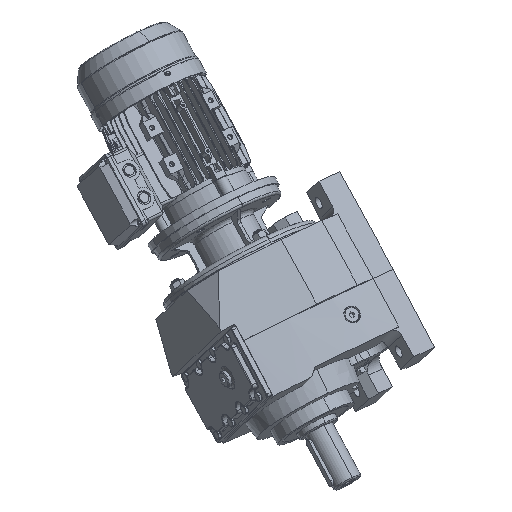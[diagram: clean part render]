
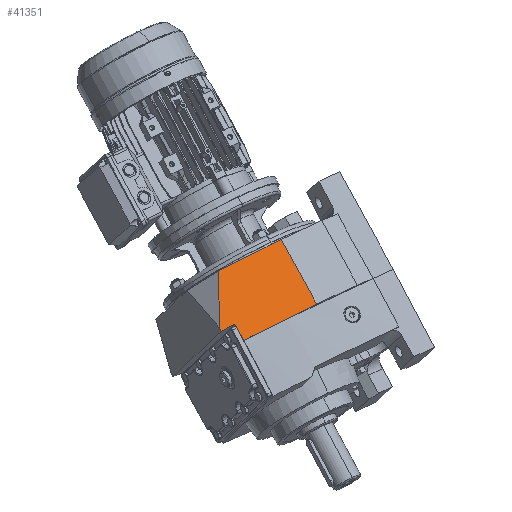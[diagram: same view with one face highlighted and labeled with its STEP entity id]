
A CAD part, left-side view. The second image highlights one B-rep face of the part: STEP entity #41351.
In plain terms, the highlighted planar face has unit normal (-0.962, -0.14, 0.235) as drawn and (0.979, 0.205, -0.017) by its records, which use the part's own axes.
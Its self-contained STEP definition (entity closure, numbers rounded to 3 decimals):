
#4397 = FACE_OUTER_BOUND ( 'NONE', #77984, .T. ) ;
#7380 = PLANE ( 'NONE',  #13823 ) ;
#7383 = CARTESIAN_POINT ( 'NONE',  ( 86.5, 91., 88.5 ) ) ;
#7430 = DIRECTION ( 'NONE',  ( 0.979, 0.205, -0.017 ) ) ;
#7484 = DIRECTION ( 'NONE',  ( -0.205, 0.979, 0. ) ) ;
#13823 = AXIS2_PLACEMENT_3D ( 'NONE', #7383, #7430, #7484 ) ;
#22653 = ORIENTED_EDGE ( 'NONE', *, *, #74459, .T. ) ;
#22717 = ORIENTED_EDGE ( 'NONE', *, *, #74402, .T. ) ;
#22726 = ORIENTED_EDGE ( 'NONE', *, *, #74626, .T. ) ;
#22728 = ORIENTED_EDGE ( 'NONE', *, *, #74604, .F. ) ;
#22736 = ORIENTED_EDGE ( 'NONE', *, *, #74648, .T. ) ;
#22745 = ORIENTED_EDGE ( 'NONE', *, *, #74601, .T. ) ;
#22751 = ORIENTED_EDGE ( 'NONE', *, *, #74521, .T. ) ;
#41351 = ADVANCED_FACE ( 'NONE', ( #4397 ), #7380, .T. ) ;
#46659 = VECTOR ( 'NONE', #49828, 1000. ) ;
#46664 = LINE ( 'NONE', #49850, #46665 ) ;
#46665 = VECTOR ( 'NONE', #49851, 1000. ) ;
#46738 = LINE ( 'NONE', #49808, #46659 ) ;
#46786 = LINE ( 'NONE', #49992, #46799 ) ;
#46799 = VECTOR ( 'NONE', #49993, 1000. ) ;
#46904 = LINE ( 'NONE', #49981, #46916 ) ;
#46916 = VECTOR ( 'NONE', #49979, 1000. ) ;
#46918 = LINE ( 'NONE', #50004, #46920 ) ;
#46920 = VECTOR ( 'NONE', #50025, 1000. ) ;
#46932 = LINE ( 'NONE', #50027, #46936 ) ;
#46936 = VECTOR ( 'NONE', #50015, 1000. ) ;
#48923 = LINE ( 'NONE', #49750, #48981 ) ;
#48981 = VECTOR ( 'NONE', #49744, 1000. ) ;
#49207 = CARTESIAN_POINT ( 'NONE',  ( 110., -21., 88.5 ) ) ;
#49209 = CARTESIAN_POINT ( 'NONE',  ( 86.138, 90.555, 62.985 ) ) ;
#49215 = CARTESIAN_POINT ( 'NONE',  ( 86.195, 90.625, 67. ) ) ;
#49249 = CARTESIAN_POINT ( 'NONE',  ( 91.449, 60.147, 3. ) ) ;
#49260 = CARTESIAN_POINT ( 'NONE',  ( 89.893, 73., 67. ) ) ;
#49292 = CARTESIAN_POINT ( 'NONE',  ( 108.508, -21.155, 3. ) ) ;
#49314 = CARTESIAN_POINT ( 'NONE',  ( 90.277, 73., 88.5 ) ) ;
#49744 = DIRECTION ( 'NONE',  ( 0.205, -0.979, 0. ) ) ;
#49750 = CARTESIAN_POINT ( 'NONE',  ( 86.5, 91., 88.5 ) ) ;
#49808 = CARTESIAN_POINT ( 'NONE',  ( 89.893, 73., 67. ) ) ;
#49828 = DIRECTION ( 'NONE',  ( 0.018, 0., 1. ) ) ;
#49850 = CARTESIAN_POINT ( 'NONE',  ( 108.508, -21.155, 3. ) ) ;
#49851 = DIRECTION ( 'NONE',  ( -0.205, 0.979, 0. ) ) ;
#49979 = DIRECTION ( 'NONE',  ( -0.014, -0.017, -1. ) ) ;
#49981 = CARTESIAN_POINT ( 'NONE',  ( 86.195, 90.625, 67. ) ) ;
#49992 = CARTESIAN_POINT ( 'NONE',  ( 110., -21., 88.5 ) ) ;
#49993 = DIRECTION ( 'NONE',  ( -0.017, -0.002, -1. ) ) ;
#50004 = CARTESIAN_POINT ( 'NONE',  ( 91.449, 60.147, 3. ) ) ;
#50015 = DIRECTION ( 'NONE',  ( 0.205, -0.979, 0. ) ) ;
#50025 = DIRECTION ( 'NONE',  ( -0.079, 0.451, 0.889 ) ) ;
#50027 = CARTESIAN_POINT ( 'NONE',  ( 86.133, 90.923, 67. ) ) ;
#74402 = EDGE_CURVE ( 'NONE', #75572, #75512, #48923, .T. ) ;
#74459 = EDGE_CURVE ( 'NONE', #75499, #75572, #46738, .T. ) ;
#74521 = EDGE_CURVE ( 'NONE', #75576, #75535, #46664, .T. ) ;
#74601 = EDGE_CURVE ( 'NONE', #75512, #75576, #46786, .T. ) ;
#74604 = EDGE_CURVE ( 'NONE', #75540, #75528, #46904, .T. ) ;
#74626 = EDGE_CURVE ( 'NONE', #75540, #75499, #46932, .T. ) ;
#74648 = EDGE_CURVE ( 'NONE', #75535, #75528, #46918, .T. ) ;
#75499 = VERTEX_POINT ( 'NONE', #49260 ) ;
#75512 = VERTEX_POINT ( 'NONE', #49207 ) ;
#75528 = VERTEX_POINT ( 'NONE', #49209 ) ;
#75535 = VERTEX_POINT ( 'NONE', #49249 ) ;
#75540 = VERTEX_POINT ( 'NONE', #49215 ) ;
#75572 = VERTEX_POINT ( 'NONE', #49314 ) ;
#75576 = VERTEX_POINT ( 'NONE', #49292 ) ;
#77984 = EDGE_LOOP ( 'NONE', ( #22751, #22736, #22728, #22726, #22653, #22717, #22745 ) ) ;
